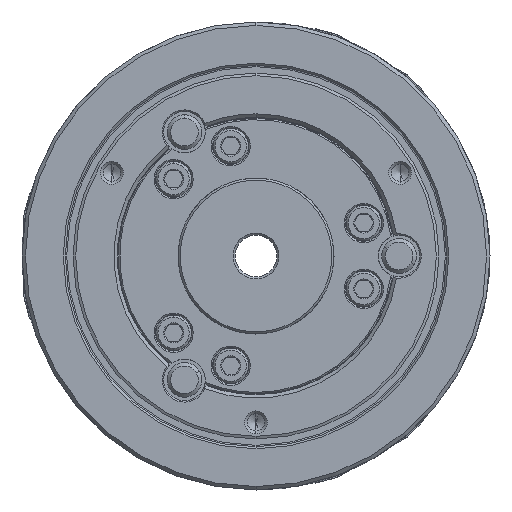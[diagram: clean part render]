
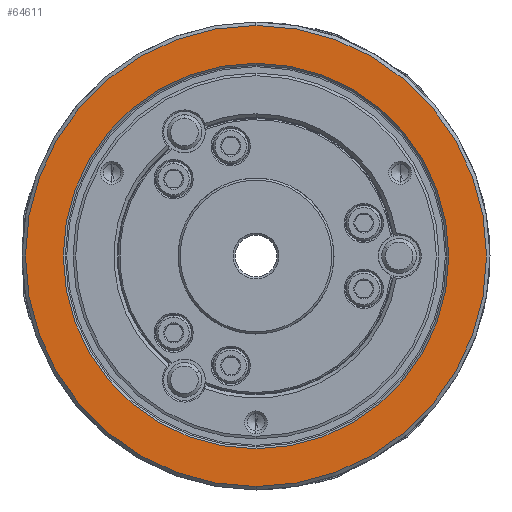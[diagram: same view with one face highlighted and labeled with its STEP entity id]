
A CAD part, left-side view. The second image highlights one B-rep face of the part: STEP entity #64611.
In plain terms, the highlighted planar face has unit normal (-1, 0, 0).
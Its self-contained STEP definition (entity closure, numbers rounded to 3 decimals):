
#647 = CARTESIAN_POINT ( 'NONE',  ( -60., 55.6, 0. ) ) ;
#2164 = ORIENTED_EDGE ( 'NONE', *, *, #79860, .T. ) ;
#3048 = CARTESIAN_POINT ( 'NONE',  ( -60., 0., 0. ) ) ;
#4260 = EDGE_CURVE ( 'NONE', #53422, #61277, #31621, .T. ) ;
#6961 = AXIS2_PLACEMENT_3D ( 'NONE', #78887, #18988, #84615 ) ;
#12073 = AXIS2_PLACEMENT_3D ( 'NONE', #29322, #24022, #36723 ) ;
#13683 = CARTESIAN_POINT ( 'NONE',  ( -60., 0., 66.5 ) ) ;
#16801 = VERTEX_POINT ( 'NONE', #13683 ) ;
#18124 = AXIS2_PLACEMENT_3D ( 'NONE', #54566, #68141, #74243 ) ;
#18988 = DIRECTION ( 'NONE',  ( 1., 0., 0. ) ) ;
#19796 = EDGE_LOOP ( 'NONE', ( #24375, #2164 ) ) ;
#22504 = CIRCLE ( 'NONE', #18124, 55.6 ) ;
#24022 = DIRECTION ( 'NONE',  ( 1., 0., 0. ) ) ;
#24203 = EDGE_CURVE ( 'NONE', #33135, #16801, #65592, .T. ) ;
#24375 = ORIENTED_EDGE ( 'NONE', *, *, #4260, .T. ) ;
#29322 = CARTESIAN_POINT ( 'NONE',  ( -60., 0., 0. ) ) ;
#30177 = CARTESIAN_POINT ( 'NONE',  ( -60., 0., -55.6 ) ) ;
#31621 = CIRCLE ( 'NONE', #65194, 55.6 ) ;
#33135 = VERTEX_POINT ( 'NONE', #80597 ) ;
#36723 = DIRECTION ( 'NONE',  ( 0., 0., -1. ) ) ;
#45318 = DIRECTION ( 'NONE',  ( 1., 0., 0. ) ) ;
#49673 = CARTESIAN_POINT ( 'NONE',  ( -60., 0., 55.6 ) ) ;
#49810 = CIRCLE ( 'NONE', #12073, 66.5 ) ;
#53422 = VERTEX_POINT ( 'NONE', #49673 ) ;
#53567 = FACE_BOUND ( 'NONE', #19796, .T. ) ;
#54001 = FACE_OUTER_BOUND ( 'NONE', #57405, .T. ) ;
#54059 = AXIS2_PLACEMENT_3D ( 'NONE', #647, #80239, #73685 ) ;
#54424 = PLANE ( 'NONE',  #54059 ) ;
#54456 = ORIENTED_EDGE ( 'NONE', *, *, #24203, .F. ) ;
#54566 = CARTESIAN_POINT ( 'NONE',  ( -60., 0., 0. ) ) ;
#57068 = ORIENTED_EDGE ( 'NONE', *, *, #62560, .F. ) ;
#57405 = EDGE_LOOP ( 'NONE', ( #54456, #57068 ) ) ;
#61277 = VERTEX_POINT ( 'NONE', #30177 ) ;
#62560 = EDGE_CURVE ( 'NONE', #16801, #33135, #49810, .T. ) ;
#64611 = ADVANCED_FACE ( 'NONE', ( #53567, #54001 ), #54424, .T. ) ;
#65194 = AXIS2_PLACEMENT_3D ( 'NONE', #3048, #45318, #65474 ) ;
#65474 = DIRECTION ( 'NONE',  ( 0., 0., -1. ) ) ;
#65592 = CIRCLE ( 'NONE', #6961, 66.5 ) ;
#68141 = DIRECTION ( 'NONE',  ( 1., 0., 0. ) ) ;
#73685 = DIRECTION ( 'NONE',  ( 0., 0., 1. ) ) ;
#74243 = DIRECTION ( 'NONE',  ( 0., 0., -1. ) ) ;
#78887 = CARTESIAN_POINT ( 'NONE',  ( -60., 0., 0. ) ) ;
#79860 = EDGE_CURVE ( 'NONE', #61277, #53422, #22504, .T. ) ;
#80239 = DIRECTION ( 'NONE',  ( -1., 0., 0. ) ) ;
#80597 = CARTESIAN_POINT ( 'NONE',  ( -60., 0., -66.5 ) ) ;
#84615 = DIRECTION ( 'NONE',  ( 0., 0., -1. ) ) ;
